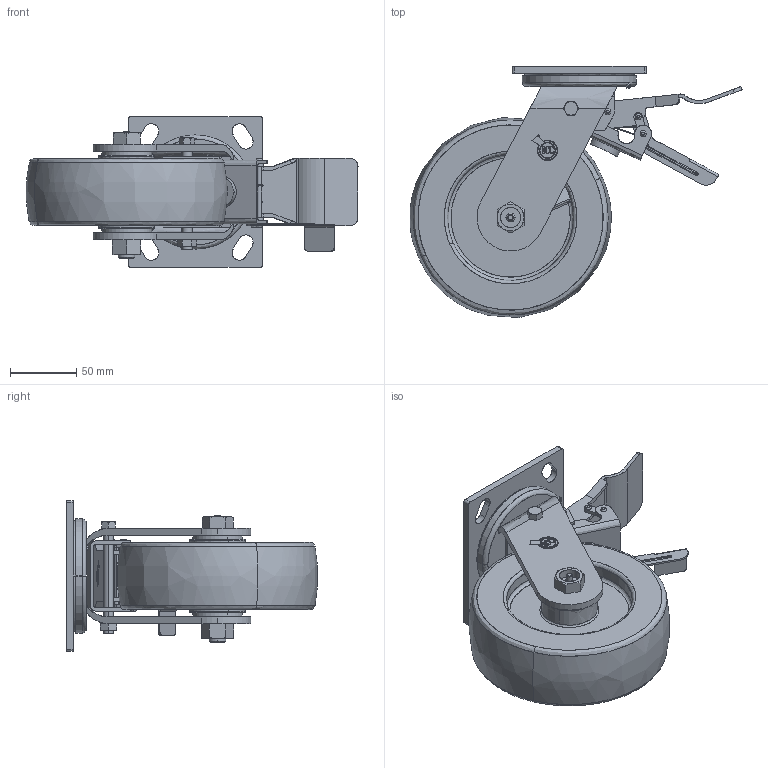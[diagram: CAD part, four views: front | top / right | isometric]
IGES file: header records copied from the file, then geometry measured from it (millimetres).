
Start section: SolidWorks IGES file using analytic representation for surfaces
Global section: file name: \\192.168.10.19\Nimesh\Inquiry\Tyler Manz\Output\2021-09-01\6'' Swivel Caster with Total Lock - Polyolefin Wheel\SCC-TTL30S620-POR 3D IGES.IGS; native system: SolidWorks 2016; preprocessor: SolidWorks 2016; author: rahul.sarma; date: 211221.145644; units: inch
Bounding box: 251.31 x 189.97 x 114.3 mm (x, y, z)
Surface area: 176304 mm2 (no closed solid volume)
Topology: 0 solids, 0 shells, 703 faces, 11272 edges, 11269 vertices
Faces by surface type: bspline 467, revolution 236
